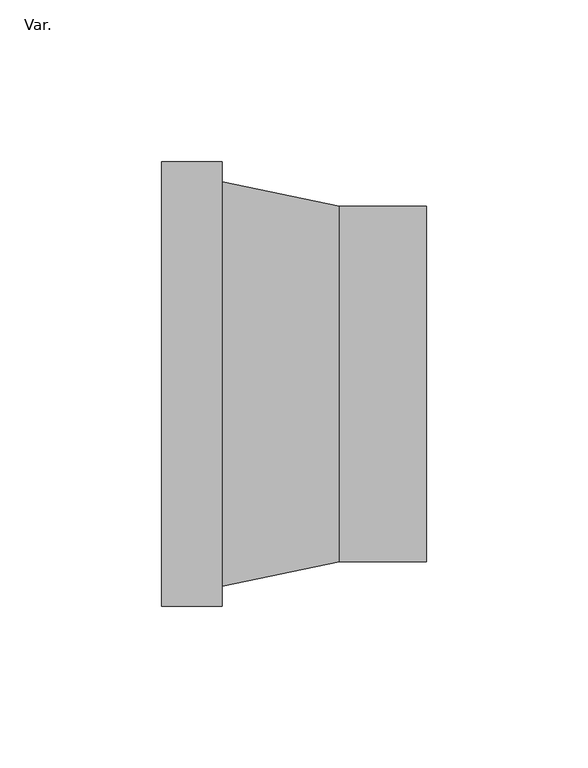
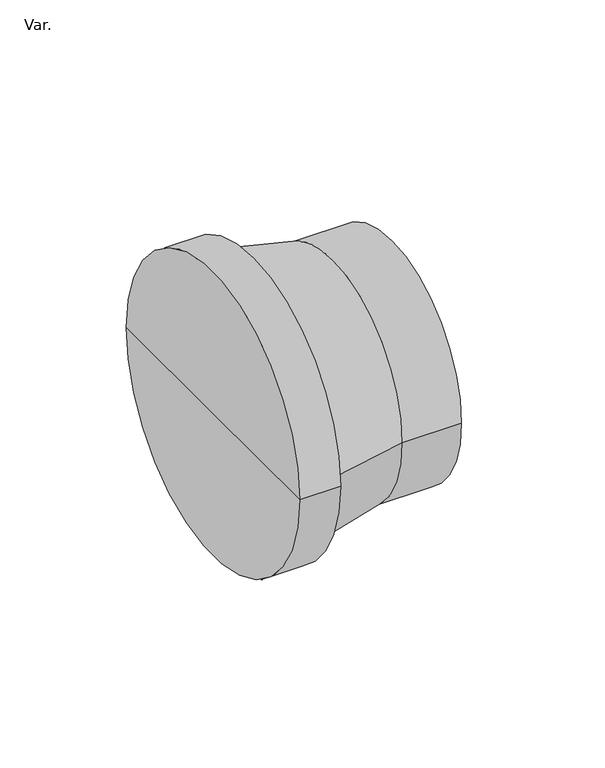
"""IFC4 building model written with IfcOpenShell, lengths in millimetres: pipe fitting geometry, PIF_HDPE stub flange_Akatherm : Var.."""

from ifc_helpers import new_model, si_unit, frame, origin, place, context, project, spatial, polyline, circle_curve, source, transform, mapped, element, save
from ifc_brep_helpers import plane_surface, cylinder_surface, revolved_surface, advanced_brep


def var_00a72124(model_context):
    return source(origin(), model_context, "Body", "AdvancedBrep", [
        advanced_brep(
        [(0.0, 0.0, 0.0), (0.0, 68.75, 0.0), (0.0, -68.75, 0.0), (82.0, -55.0, 0.0), (82.0, 55.0, 0.0), (82.0, 0.0, 0.0), (55.0, -55.0, 0.0), (55.0, 55.0, 0.0), (18.75, -62.5, 0.0), (18.75, 62.5, 0.0), (18.75, -68.75, 0.0), (18.75, 68.75, 0.0)],
        [
            (0, 1),
            (1, 2, circle_curve(frame((0.0, 0.0, 0.0), z_axis=(-1.0, 0.0, 0.0), x_axis=(0.0, 1.0, 0.0)), 68.75)),
            (2, 0),
            (2, 1, circle_curve(frame((0.0, 0.0, 0.0), z_axis=(-1.0, 0.0, 0.0), x_axis=(0.0, 1.0, 0.0)), 68.75)),
            (3, 4, circle_curve(frame((82.0, 0.0, 0.0), z_axis=(1.0, 0.0, 0.0), x_axis=(0.0, 1.0, 0.0)), 55.0)),
            (4, 5),
            (5, 3),
            (4, 3, circle_curve(frame((82.0, 0.0, 0.0), z_axis=(1.0, 0.0, 0.0), x_axis=(0.0, 1.0, 0.0)), 55.0)),
            (6, 7, circle_curve(frame((55.0, 0.0, 0.0), z_axis=(1.0, 0.0, 0.0), x_axis=(0.0, 1.0, 0.0)), 55.0)),
            (7, 4),
            (3, 6),
            (7, 6, circle_curve(frame((55.0, 0.0, 0.0), z_axis=(1.0, 0.0, 0.0), x_axis=(0.0, 1.0, 0.0)), 55.0)),
            (8, 9, circle_curve(frame((18.75, 0.0, 0.0), z_axis=(1.0, 0.0, 0.0), x_axis=(0.0, 1.0, 0.0)), 62.5)),
            (9, 7),
            (6, 8),
            (9, 8, circle_curve(frame((18.75, 0.0, 0.0), z_axis=(1.0, 0.0, 0.0), x_axis=(0.0, 1.0, 0.0)), 62.5)),
            (10, 11, circle_curve(frame((18.75, 0.0, 0.0), z_axis=(1.0, 0.0, 0.0), x_axis=(0.0, 1.0, 0.0)), 68.75)),
            (11, 9),
            (8, 10),
            (11, 10, circle_curve(frame((18.75, 0.0, 0.0), z_axis=(1.0, 0.0, 0.0), x_axis=(0.0, 1.0, 0.0)), 68.75)),
            (1, 11),
            (10, 2),
        ],
        [
            plane_surface(frame((0.0, 0.0, 0.0), z_axis=(-1.0, 0.0, 0.0), x_axis=(0.0, 1.0, 0.0))),
            plane_surface(frame((82.0, 0.0, 0.0), z_axis=(1.0, 0.0, 0.0), x_axis=(0.0, 1.0, 0.0))),
            cylinder_surface(frame((0.0, 0.0, 0.0), z_axis=(-1.0, 0.0, 0.0), x_axis=(0.0, 1.0, 0.0)), 55.0),
            revolved_surface(polyline([(55.0, 55.0, 0.0), (18.75, 62.5, 0.0)]), (0.0, 0.0, 0.0), (-1.0, 0.0, 0.0)),
            plane_surface(frame((18.75, 0.0, 0.0), z_axis=(1.0, 0.0, 0.0), x_axis=(0.0, 1.0, 0.0))),
            cylinder_surface(frame((0.0, 0.0, 0.0), z_axis=(-1.0, 0.0, 0.0), x_axis=(0.0, 1.0, 0.0)), 68.75),
        ],
        [
            (0, [[1, 2, 3]]),
            (0, [[-3, 4, -1]]),
            (1, [[5, 6, 7]]),
            (1, [[8, -7, -6]]),
            (2, [[9, 10, -5, 11]]),
            (2, [[12, -11, -8, -10]]),
            (3, [[13, 14, -9, 15]]),
            (3, [[16, -15, -12, -14]]),
            (4, [[17, 18, -13, 19]]),
            (4, [[20, -19, -16, -18]]),
            (5, [[-2, 21, -17, 22]]),
            (5, [[-4, -22, -20, -21]]),
        ],
    ),
    ])


if __name__ == "__main__":
    model = new_model("IFC4")
    model_context = context("Model", 3, world=origin())
    ifc_project = project(units=[si_unit("LENGTHUNIT", "METRE", prefix="MILLI")], contexts=[model_context])
    site = spatial("IfcSite", under=ifc_project)
    building = spatial("IfcBuilding", under=site)
    placement = place(None, origin())
    var_shape = var_00a72124(model_context)
    element("IfcPipeFitting", 1, ObjectType="PIF_HDPE stub flange_Akatherm : Var.", at=placement, inside=building, context=model_context, shape_type="MappedRepresentation", body=[
        mapped(var_shape, transform((0.0, 0.0, 0.0), x_axis=(1.0, 0.0, 0.0), y_axis=(0.0, 1.0, 0.0), z_axis=(0.0, 0.0, 1.0))),
    ])
    save(model, "model.ifc")
